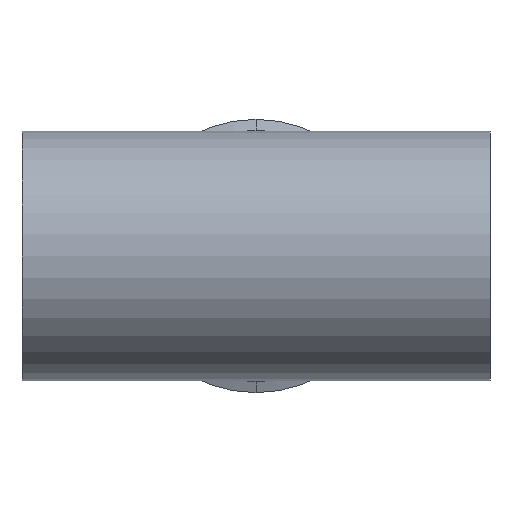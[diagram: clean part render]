
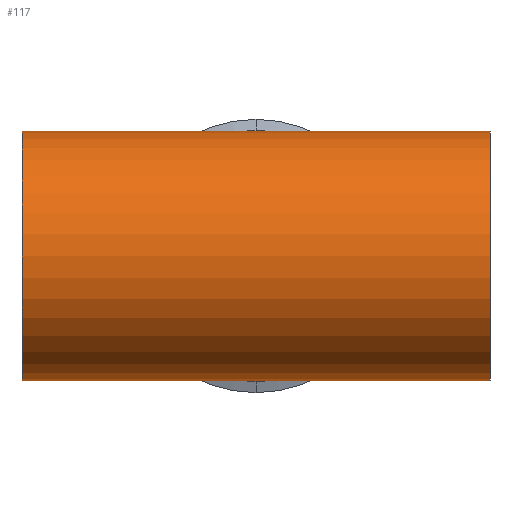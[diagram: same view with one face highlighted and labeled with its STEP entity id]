
A CAD part, front view. The second image highlights one B-rep face of the part: STEP entity #117.
In plain terms, the highlighted cylindrical face has radius 76.2 mm (diameter 152.4 mm), a partial arc.
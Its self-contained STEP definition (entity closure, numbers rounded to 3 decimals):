
#2 = EDGE_CURVE ( 'NONE', #1103, #1781, #239, .T. ) ;
#46 = VERTEX_POINT ( 'NONE', #1012 ) ;
#81 = CARTESIAN_POINT ( 'NONE',  ( -142.9, 0., -76.2 ) ) ;
#117 = ADVANCED_FACE ( 'NONE', ( #701 ), #1611, .T. ) ;
#234 = CARTESIAN_POINT ( 'NONE',  ( -142.9, 0., 0. ) ) ;
#239 = LINE ( 'NONE', #2205, #645 ) ;
#266 = VERTEX_POINT ( 'NONE', #1501 ) ;
#278 = DIRECTION ( 'NONE',  ( 0., 0., -1. ) ) ;
#328 = LINE ( 'NONE', #81, #818 ) ;
#347 = EDGE_CURVE ( 'NONE', #1217, #1355, #417, .T. ) ;
#375 = CARTESIAN_POINT ( 'NONE',  ( -142.9, 0., 0. ) ) ;
#395 = LINE ( 'NONE', #1471, #542 ) ;
#417 = LINE ( 'NONE', #2065, #947 ) ;
#427 = EDGE_CURVE ( 'NONE', #266, #46, #1178, .T. ) ;
#504 = ORIENTED_EDGE ( 'NONE', *, *, #2, .F. ) ;
#542 = VECTOR ( 'NONE', #2266, 1000. ) ;
#571 = CARTESIAN_POINT ( 'NONE',  ( -142.9, 0., 76.2 ) ) ;
#598 = ORIENTED_EDGE ( 'NONE', *, *, #1434, .T. ) ;
#636 = CARTESIAN_POINT ( 'NONE',  ( 0., 0., 76.2 ) ) ;
#645 = VECTOR ( 'NONE', #1184, 1000. ) ;
#652 = CARTESIAN_POINT ( 'NONE',  ( 142.9, 0., 0. ) ) ;
#701 = FACE_OUTER_BOUND ( 'NONE', #1817, .T. ) ;
#720 = DIRECTION ( 'NONE',  ( 0., 0., -1. ) ) ;
#736 = DIRECTION ( 'NONE',  ( -1., 0., 0. ) ) ;
#818 = VECTOR ( 'NONE', #2085, 1000. ) ;
#854 = ORIENTED_EDGE ( 'NONE', *, *, #347, .T. ) ;
#870 = ORIENTED_EDGE ( 'NONE', *, *, #2100, .T. ) ;
#947 = VECTOR ( 'NONE', #2035, 1000. ) ;
#1010 = AXIS2_PLACEMENT_3D ( 'NONE', #652, #736, #720 ) ;
#1012 = CARTESIAN_POINT ( 'NONE',  ( 142.9, 0., 76.2 ) ) ;
#1026 = EDGE_CURVE ( 'NONE', #1781, #46, #395, .T. ) ;
#1103 = VERTEX_POINT ( 'NONE', #571 ) ;
#1106 = ORIENTED_EDGE ( 'NONE', *, *, #427, .T. ) ;
#1178 = CIRCLE ( 'NONE', #1010, 76.2 ) ;
#1184 = DIRECTION ( 'NONE',  ( 1., 0., 0. ) ) ;
#1217 = VERTEX_POINT ( 'NONE', #1453 ) ;
#1307 = DIRECTION ( 'NONE',  ( 0., 0., -1. ) ) ;
#1355 = VERTEX_POINT ( 'NONE', #1826 ) ;
#1434 = EDGE_CURVE ( 'NONE', #1103, #1217, #1748, .T. ) ;
#1453 = CARTESIAN_POINT ( 'NONE',  ( -142.9, 0., -76.2 ) ) ;
#1471 = CARTESIAN_POINT ( 'NONE',  ( -142.9, 0., 76.2 ) ) ;
#1501 = CARTESIAN_POINT ( 'NONE',  ( 142.9, 0., -76.2 ) ) ;
#1611 = CYLINDRICAL_SURFACE ( 'NONE', #1957, 76.2 ) ;
#1705 = AXIS2_PLACEMENT_3D ( 'NONE', #375, #1857, #278 ) ;
#1748 = CIRCLE ( 'NONE', #1705, 76.2 ) ;
#1762 = ORIENTED_EDGE ( 'NONE', *, *, #1026, .F. ) ;
#1781 = VERTEX_POINT ( 'NONE', #636 ) ;
#1817 = EDGE_LOOP ( 'NONE', ( #504, #598, #854, #870, #1106, #1762 ) ) ;
#1826 = CARTESIAN_POINT ( 'NONE',  ( 0., 0., -76.2 ) ) ;
#1857 = DIRECTION ( 'NONE',  ( 1., 0., 0. ) ) ;
#1889 = DIRECTION ( 'NONE',  ( 1., 0., 0. ) ) ;
#1957 = AXIS2_PLACEMENT_3D ( 'NONE', #234, #1889, #1307 ) ;
#2035 = DIRECTION ( 'NONE',  ( 1., 0., 0. ) ) ;
#2065 = CARTESIAN_POINT ( 'NONE',  ( -142.9, 0., -76.2 ) ) ;
#2085 = DIRECTION ( 'NONE',  ( 1., 0., 0. ) ) ;
#2100 = EDGE_CURVE ( 'NONE', #1355, #266, #328, .T. ) ;
#2205 = CARTESIAN_POINT ( 'NONE',  ( -142.9, 0., 76.2 ) ) ;
#2266 = DIRECTION ( 'NONE',  ( 1., 0., 0. ) ) ;
